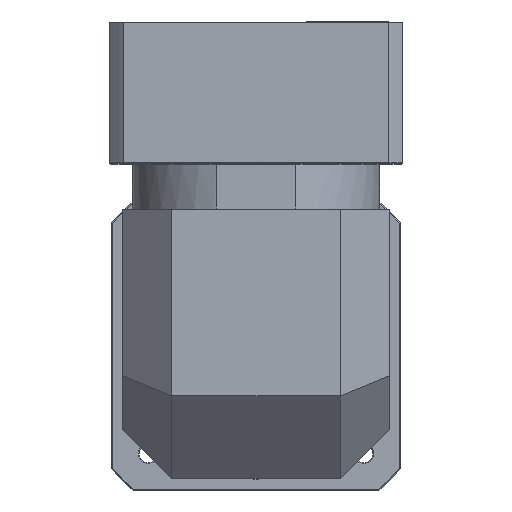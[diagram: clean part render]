
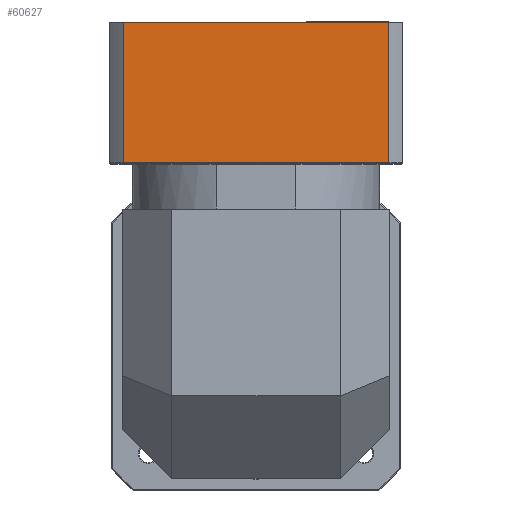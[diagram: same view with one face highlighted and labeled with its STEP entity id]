
A CAD part, top view. The second image highlights one B-rep face of the part: STEP entity #60627.
In plain terms, the highlighted planar face has unit normal (0, 0, 1).
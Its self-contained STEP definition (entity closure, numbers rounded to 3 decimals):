
#12048 = DIRECTION ( 'NONE',  ( 1., 0., 0. ) ) ;
#14300 = ORIENTED_EDGE ( 'NONE', *, *, #20573, .F. ) ;
#15278 = VERTEX_POINT ( 'NONE', #121181 ) ;
#17627 = PLANE ( 'NONE',  #104674 ) ;
#20573 = EDGE_CURVE ( 'NONE', #23209, #15278, #104493, .T. ) ;
#23122 = VECTOR ( 'NONE', #56570, 1000. ) ;
#23209 = VERTEX_POINT ( 'NONE', #35236 ) ;
#24290 = LINE ( 'NONE', #43315, #125080 ) ;
#26124 = LINE ( 'NONE', #43106, #65141 ) ;
#26722 = CARTESIAN_POINT ( 'NONE',  ( -8.196, 288.679, 105.818 ) ) ;
#34431 = CARTESIAN_POINT ( 'NONE',  ( -16.704, -140.126, 105.818 ) ) ;
#35236 = CARTESIAN_POINT ( 'NONE',  ( -177.689, 203.179, 105.818 ) ) ;
#36159 = ORIENTED_EDGE ( 'NONE', *, *, #78716, .F. ) ;
#43106 = CARTESIAN_POINT ( 'NONE',  ( -8.196, 203.179, 105.818 ) ) ;
#43315 = CARTESIAN_POINT ( 'NONE',  ( -16.196, 288.179, 105.818 ) ) ;
#45744 = VERTEX_POINT ( 'NONE', #132106 ) ;
#56570 = DIRECTION ( 'NONE',  ( 0., 1., 0. ) ) ;
#59144 = ORIENTED_EDGE ( 'NONE', *, *, #113151, .F. ) ;
#60627 = ADVANCED_FACE ( 'NONE', ( #70756 ), #17627, .F. ) ;
#60739 = VERTEX_POINT ( 'NONE', #123436 ) ;
#65141 = VECTOR ( 'NONE', #72324, 1000. ) ;
#70756 = FACE_OUTER_BOUND ( 'NONE', #110617, .T. ) ;
#72324 = DIRECTION ( 'NONE',  ( -1., 0., 0. ) ) ;
#78716 = EDGE_CURVE ( 'NONE', #45744, #60739, #87964, .T. ) ;
#85318 = EDGE_CURVE ( 'NONE', #15278, #45744, #24290, .T. ) ;
#87964 = LINE ( 'NONE', #34431, #112354 ) ;
#99479 = DIRECTION ( 'NONE',  ( 0., -1., 0. ) ) ;
#104493 = LINE ( 'NONE', #108319, #23122 ) ;
#104674 = AXIS2_PLACEMENT_3D ( 'NONE', #26722, #121214, #99479 ) ;
#108319 = CARTESIAN_POINT ( 'NONE',  ( -177.689, -140.126, 105.818 ) ) ;
#110617 = EDGE_LOOP ( 'NONE', ( #14300, #59144, #36159, #127179 ) ) ;
#112354 = VECTOR ( 'NONE', #118012, 1000. ) ;
#113151 = EDGE_CURVE ( 'NONE', #60739, #23209, #26124, .T. ) ;
#118012 = DIRECTION ( 'NONE',  ( 0., -1., 0. ) ) ;
#121181 = CARTESIAN_POINT ( 'NONE',  ( -177.689, 288.179, 105.818 ) ) ;
#121214 = DIRECTION ( 'NONE',  ( 0., 0., -1. ) ) ;
#123436 = CARTESIAN_POINT ( 'NONE',  ( -16.704, 203.179, 105.818 ) ) ;
#125080 = VECTOR ( 'NONE', #12048, 1000. ) ;
#127179 = ORIENTED_EDGE ( 'NONE', *, *, #85318, .F. ) ;
#132106 = CARTESIAN_POINT ( 'NONE',  ( -16.704, 288.179, 105.818 ) ) ;
